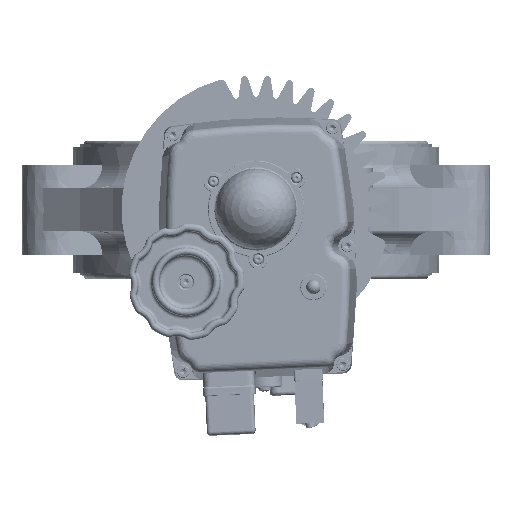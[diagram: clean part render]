
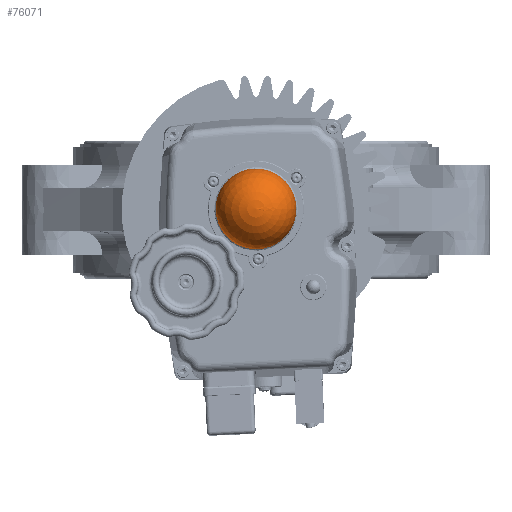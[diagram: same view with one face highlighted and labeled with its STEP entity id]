
A CAD part, top view. The second image highlights one B-rep face of the part: STEP entity #76071.
In plain terms, the highlighted spherical face has radius 22.5 mm.
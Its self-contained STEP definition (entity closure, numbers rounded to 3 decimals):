
#76048=CARTESIAN_POINT('',(22.465,0.981,340.273));
#76049=VERTEX_POINT('',#76048);
#76050=CARTESIAN_POINT('',(0.,0.,340.273));
#76051=DIRECTION('',(0.0,0.0,-1.0));
#76052=DIRECTION('',(0.999,0.044,0.0));
#76053=AXIS2_PLACEMENT_3D('',#76050,#76051,#76052);
#76054=CIRCLE('',#76053,22.487);
#76055=EDGE_CURVE('',#76049,#76049,#76054,.T.);
#76063=CARTESIAN_POINT('',(0.,0.,339.5));
#76064=DIRECTION('',(0.0,0.0,1.0));
#76065=DIRECTION('',(1.0,0.0,0.0));
#76066=AXIS2_PLACEMENT_3D('',#76063,#76064,#76065);
#76067=SPHERICAL_SURFACE('',#76066,22.5);
#76068=ORIENTED_EDGE('',*,*,#76055,.F.);
#76069=EDGE_LOOP('',(#76068));
#76070=FACE_OUTER_BOUND('',#76069,.T.);
#76071=ADVANCED_FACE('',(#76070),#76067,.T.);
